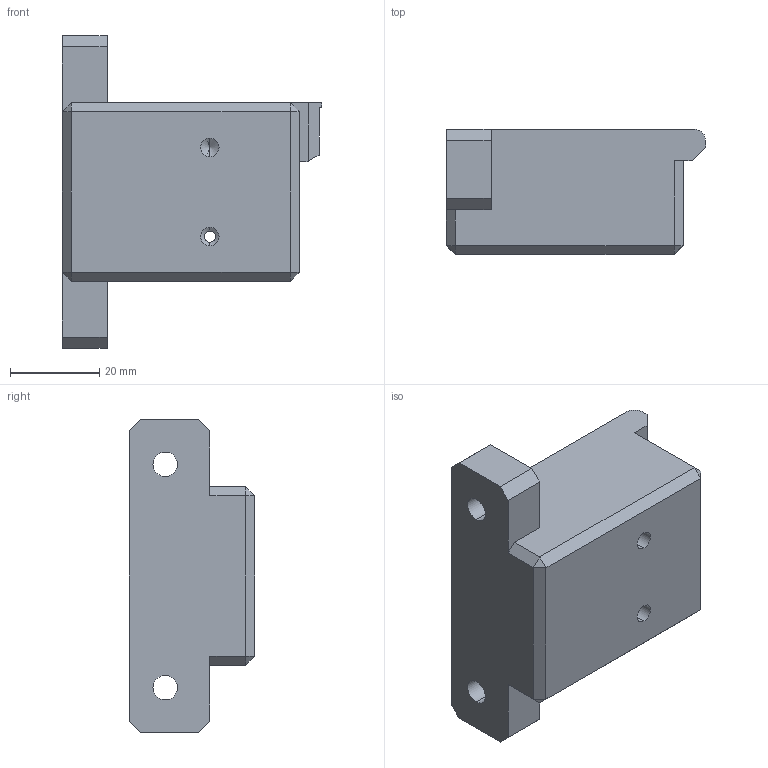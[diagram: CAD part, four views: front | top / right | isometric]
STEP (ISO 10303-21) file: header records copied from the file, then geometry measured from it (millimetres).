
FILE_DESCRIPTION (( 'STEP AP214' ), '1' );
FILE_NAME ('GZ26.03_V1固定座.STEP', '2021-03-31T03:44:11', ( '微软中国' ), ( 'Microsoft' ), 'SwSTEP 2.0', 'SolidWorks 2017', '' );
FILE_SCHEMA (( 'AUTOMOTIVE_DESIGN' ));
Length unit declared in the file: millimetre
Products named in the file (1): GZ26.03_V1嘐隅釱
Bounding box: 58 x 28 x 70 mm (x, y, z)
Volume: 46152.6 mm3; surface area: 11728.8 mm2
Topology: 1 solids, 1 shells, 72 faces, 186 edges, 113 vertices
Faces by surface type: plane 43, cylinder 21, cone 8
Entity records: 2254 total; most frequent: DIRECTION 369, CARTESIAN_POINT 369, ORIENTED_EDGE 360, EDGE_CURVE 180, VECTOR 135, LINE 135, AXIS2_PLACEMENT_3D 117, VERTEX_POINT 113
